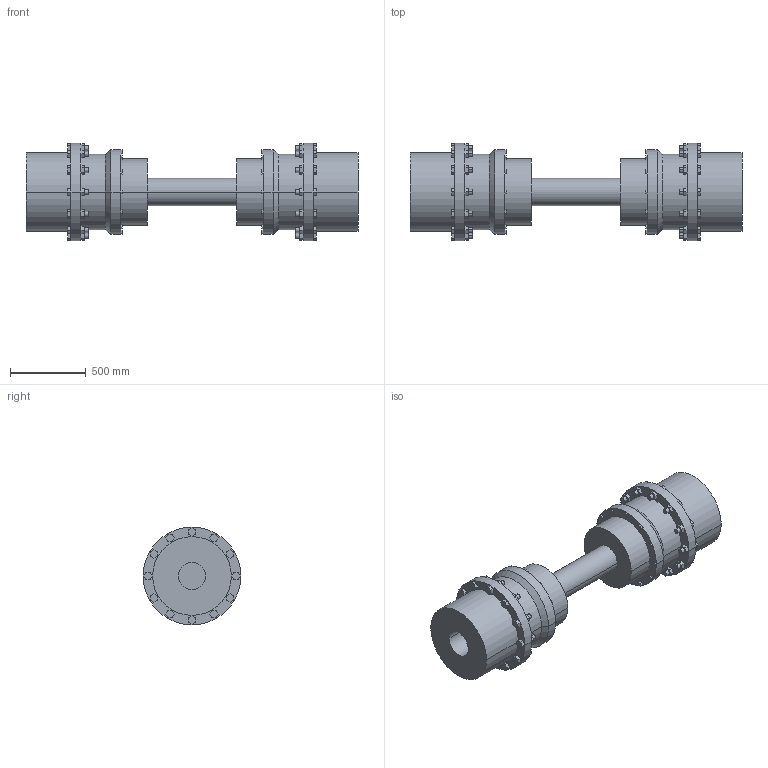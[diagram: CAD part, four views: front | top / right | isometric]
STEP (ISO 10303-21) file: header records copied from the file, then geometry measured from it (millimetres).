
FILE_DESCRIPTION((''),'2;1');
FILE_NAME('A19068700-0_ASM','2018-11-28T',('AB_Roschiwal'),('RENK AG'),'PRO/ENGINEER BY PARAMETRIC TECHNOLOGY CORPORATION, 2015440','PRO/ENGINEER BY PARAMETRIC TECHNOLOGY CORPORATION, 2015440','');
FILE_SCHEMA(('CONFIG_CONTROL_DESIGN'));
Length unit declared in the file: millimetre
Products named in the file (4): SBGK265_GEHAEUSE; SBGK265_NABE; SBGK265_WELLE; A19068700-0_ASM
Assembly tree (5 placements, depth 2):
  A19068700-0_ASM
    SBGK265_GEHAEUSE  x2
    SBGK265_NABE  x2
    SBGK265_WELLE
Bounding box: 2192 x 645 x 645 mm (x, y, z)
Volume: 323341826.3 mm3; surface area: 7335385.3 mm2
Topology: 5 solids, 5 shells, 660 faces, 1606 edges, 1068 vertices
Faces by surface type: plane 554, cylinder 102, cone 4
Entity records: 9734 total; most frequent: CARTESIAN_POINT 1683, ORIENTED_EDGE 1612, DIRECTION 1592, EDGE_CURVE 806, VECTOR 702, LINE 702, VERTEX_POINT 536, AXIS2_PLACEMENT_3D 445
